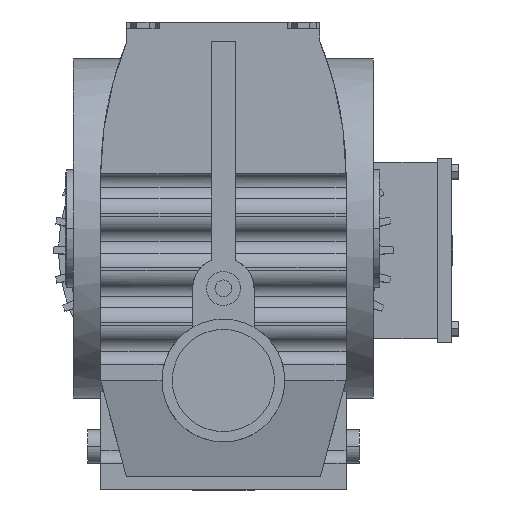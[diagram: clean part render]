
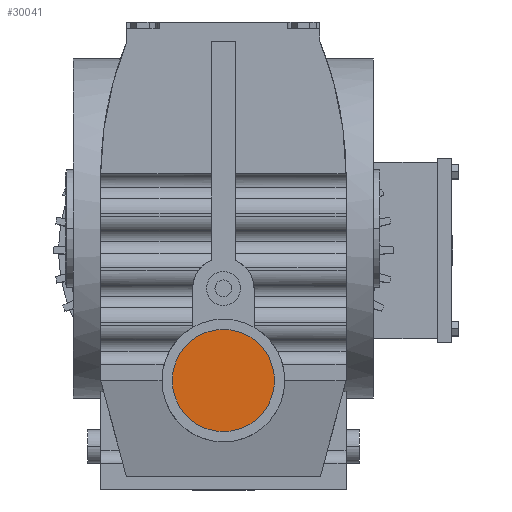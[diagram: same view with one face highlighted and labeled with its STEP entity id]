
A CAD part, top view. The second image highlights one B-rep face of the part: STEP entity #30041.
In plain terms, the highlighted planar face has unit normal (0, 0, 1).
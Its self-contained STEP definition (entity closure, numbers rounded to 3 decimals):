
#28032 = CYLINDRICAL_SURFACE('',#28033,19.583);
#28033 = AXIS2_PLACEMENT_3D('',#28034,#28035,#28036);
#28034 = CARTESIAN_POINT('',(0.,-50.333,106.11));
#28035 = DIRECTION('',(0.,0.,1.));
#28036 = DIRECTION('',(1.,0.,0.));
#28058 = CYLINDRICAL_SURFACE('',#28059,19.583);
#28059 = AXIS2_PLACEMENT_3D('',#28060,#28061,#28062);
#28060 = CARTESIAN_POINT('',(0.,-50.333,106.11));
#28061 = DIRECTION('',(0.,0.,1.));
#28062 = DIRECTION('',(1.,0.,0.));
#29188 = VERTEX_POINT('',#29189);
#29189 = CARTESIAN_POINT('',(-19.583,-50.333,161.5));
#29210 = VERTEX_POINT('',#29211);
#29211 = CARTESIAN_POINT('',(19.583,-50.333,161.5));
#29230 = EDGE_CURVE('',#29188,#29210,#29231,.T.);
#29231 = SURFACE_CURVE('',#29232,(#29237,#29243),.PCURVE_S1.);
#29232 = CIRCLE('',#29233,19.583);
#29233 = AXIS2_PLACEMENT_3D('',#29234,#29235,#29236);
#29234 = CARTESIAN_POINT('',(0.,-50.333,161.5));
#29235 = DIRECTION('',(0.,0.,-1.));
#29236 = DIRECTION('',(1.,0.,0.));
#29237 = PCURVE('',#28032,#29238);
#29238 = DEFINITIONAL_REPRESENTATION('',(#29239),#29242);
#29239 = B_SPLINE_CURVE_WITH_KNOTS('',1,(#29240,#29241),.UNSPECIFIED.,
  .F.,.F.,(2,2),(3.142,6.283),.PIECEWISE_BEZIER_KNOTS.);
#29240 = CARTESIAN_POINT('',(3.142,55.39));
#29241 = CARTESIAN_POINT('',(0.,55.39));
#29242 = ( GEOMETRIC_REPRESENTATION_CONTEXT(2) 
PARAMETRIC_REPRESENTATION_CONTEXT() REPRESENTATION_CONTEXT('2D SPACE',''
  ) );
#29243 = PCURVE('',#29244,#29249);
#29244 = PLANE('',#29245);
#29245 = AXIS2_PLACEMENT_3D('',#29246,#29247,#29248);
#29246 = CARTESIAN_POINT('',(0.,-15.083,161.5));
#29247 = DIRECTION('',(0.,0.,1.));
#29248 = DIRECTION('',(1.,0.,0.));
#29249 = DEFINITIONAL_REPRESENTATION('',(#29250),#29258);
#29250 = ( BOUNDED_CURVE() B_SPLINE_CURVE(2,(#29251,#29252,#29253,#29254
    ,#29255,#29256,#29257),.UNSPECIFIED.,.T.,.F.) 
B_SPLINE_CURVE_WITH_KNOTS((1,2,2,2,2,1),(-2.094,0.,
    2.094,4.189,6.283,8.378),
.UNSPECIFIED.) CURVE() GEOMETRIC_REPRESENTATION_ITEM() 
RATIONAL_B_SPLINE_CURVE((1.,0.5,1.,0.5,1.,0.5,1.)) REPRESENTATION_ITEM(
  '') );
#29251 = CARTESIAN_POINT('',(19.583,-35.25));
#29252 = CARTESIAN_POINT('',(19.583,-69.169));
#29253 = CARTESIAN_POINT('',(-9.792,-52.21));
#29254 = CARTESIAN_POINT('',(-39.167,-35.25));
#29255 = CARTESIAN_POINT('',(-9.792,-18.29));
#29256 = CARTESIAN_POINT('',(19.583,-1.331));
#29257 = CARTESIAN_POINT('',(19.583,-35.25));
#29258 = ( GEOMETRIC_REPRESENTATION_CONTEXT(2) 
PARAMETRIC_REPRESENTATION_CONTEXT() REPRESENTATION_CONTEXT('2D SPACE',''
  ) );
#29263 = EDGE_CURVE('',#29210,#29188,#29264,.T.);
#29264 = SURFACE_CURVE('',#29265,(#29270,#29276),.PCURVE_S1.);
#29265 = CIRCLE('',#29266,19.583);
#29266 = AXIS2_PLACEMENT_3D('',#29267,#29268,#29269);
#29267 = CARTESIAN_POINT('',(0.,-50.333,161.5));
#29268 = DIRECTION('',(0.,0.,-1.));
#29269 = DIRECTION('',(1.,0.,0.));
#29270 = PCURVE('',#28058,#29271);
#29271 = DEFINITIONAL_REPRESENTATION('',(#29272),#29275);
#29272 = B_SPLINE_CURVE_WITH_KNOTS('',1,(#29273,#29274),.UNSPECIFIED.,
  .F.,.F.,(2,2),(0.,3.142),.PIECEWISE_BEZIER_KNOTS.);
#29273 = CARTESIAN_POINT('',(6.283,55.39));
#29274 = CARTESIAN_POINT('',(3.142,55.39));
#29275 = ( GEOMETRIC_REPRESENTATION_CONTEXT(2) 
PARAMETRIC_REPRESENTATION_CONTEXT() REPRESENTATION_CONTEXT('2D SPACE',''
  ) );
#29276 = PCURVE('',#29244,#29277);
#29277 = DEFINITIONAL_REPRESENTATION('',(#29278),#29286);
#29278 = ( BOUNDED_CURVE() B_SPLINE_CURVE(2,(#29279,#29280,#29281,#29282
    ,#29283,#29284,#29285),.UNSPECIFIED.,.T.,.F.) 
B_SPLINE_CURVE_WITH_KNOTS((1,2,2,2,2,1),(-2.094,0.,
    2.094,4.189,6.283,8.378),
.UNSPECIFIED.) CURVE() GEOMETRIC_REPRESENTATION_ITEM() 
RATIONAL_B_SPLINE_CURVE((1.,0.5,1.,0.5,1.,0.5,1.)) REPRESENTATION_ITEM(
  '') );
#29279 = CARTESIAN_POINT('',(19.583,-35.25));
#29280 = CARTESIAN_POINT('',(19.583,-69.169));
#29281 = CARTESIAN_POINT('',(-9.792,-52.21));
#29282 = CARTESIAN_POINT('',(-39.167,-35.25));
#29283 = CARTESIAN_POINT('',(-9.792,-18.29));
#29284 = CARTESIAN_POINT('',(19.583,-1.331));
#29285 = CARTESIAN_POINT('',(19.583,-35.25));
#29286 = ( GEOMETRIC_REPRESENTATION_CONTEXT(2) 
PARAMETRIC_REPRESENTATION_CONTEXT() REPRESENTATION_CONTEXT('2D SPACE',''
  ) );
#30041 = ADVANCED_FACE('',(#30042),#29244,.T.);
#30042 = FACE_BOUND('',#30043,.T.);
#30043 = EDGE_LOOP('',(#30044,#30045));
#30044 = ORIENTED_EDGE('',*,*,#29263,.F.);
#30045 = ORIENTED_EDGE('',*,*,#29230,.F.);
